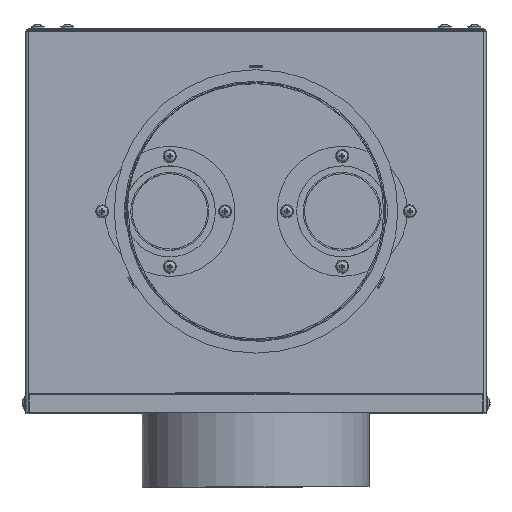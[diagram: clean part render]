
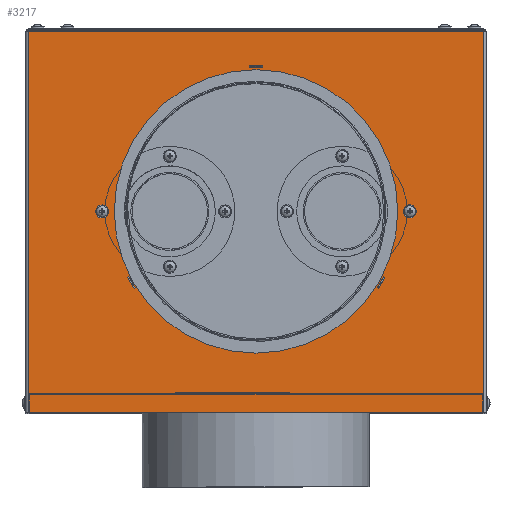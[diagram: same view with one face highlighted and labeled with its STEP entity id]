
A CAD part, top view. The second image highlights one B-rep face of the part: STEP entity #3217.
In plain terms, the highlighted planar face has unit normal (0, 0, 1).
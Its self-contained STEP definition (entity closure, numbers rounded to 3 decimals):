
#3217=ADVANCED_FACE('',(#16882,#16884,#16886,#16888,#16890,#16892,#16894),#16896,
.T.);
#16882=FACE_BOUND('',#16883,.T.);
#16883=EDGE_LOOP('',(#32933,#32934,#32935,#32936));
#16884=FACE_BOUND('',#16885,.T.);
#16885=EDGE_LOOP('',(#32937));
#16886=FACE_BOUND('',#16887,.T.);
#16887=EDGE_LOOP('',(#32938));
#16888=FACE_BOUND('',#16889,.T.);
#16889=EDGE_LOOP('',(#32939,#32940,#32941,#32942));
#16890=FACE_BOUND('',#16891,.T.);
#16891=EDGE_LOOP('',(#32943,#32944,#32945,#32946));
#16892=FACE_BOUND('',#16893,.T.);
#16893=EDGE_LOOP('',(#32947,#32948,#32949,#32950));
#16894=FACE_BOUND('',#16895,.T.);
#16895=EDGE_LOOP('',(#32951));
#16896=PLANE('',#16897);
#16897=AXIS2_PLACEMENT_3D('',#16898,#16899,#16900);
#16898=CARTESIAN_POINT('',(-175.,-15.,161.5));
#16899=DIRECTION('',(0.,0.,1.));
#16900=DIRECTION('',(1.,0.,0.));
#32933=ORIENTED_EDGE('',*,*,#41207,.T.);
#32934=ORIENTED_EDGE('',*,*,#40909,.T.);
#32935=ORIENTED_EDGE('',*,*,#41208,.T.);
#32936=ORIENTED_EDGE('',*,*,#40742,.F.);
#32937=ORIENTED_EDGE('',*,*,#41209,.F.);
#32938=ORIENTED_EDGE('',*,*,#41210,.F.);
#32939=ORIENTED_EDGE('',*,*,#41211,.T.);
#32940=ORIENTED_EDGE('',*,*,#41212,.T.);
#32941=ORIENTED_EDGE('',*,*,#41213,.T.);
#32942=ORIENTED_EDGE('',*,*,#41214,.T.);
#32943=ORIENTED_EDGE('',*,*,#41215,.T.);
#32944=ORIENTED_EDGE('',*,*,#41216,.T.);
#32945=ORIENTED_EDGE('',*,*,#41217,.T.);
#32946=ORIENTED_EDGE('',*,*,#41218,.T.);
#32947=ORIENTED_EDGE('',*,*,#41219,.T.);
#32948=ORIENTED_EDGE('',*,*,#41220,.T.);
#32949=ORIENTED_EDGE('',*,*,#41221,.T.);
#32950=ORIENTED_EDGE('',*,*,#41222,.T.);
#32951=ORIENTED_EDGE('',*,*,#41223,.F.);
#40742=EDGE_CURVE('',#45567,#45569,#45570,.T.);
#40909=EDGE_CURVE('',#45823,#45825,#45827,.T.);
#41207=EDGE_CURVE('',#45567,#45823,#46276,.T.);
#41208=EDGE_CURVE('',#45825,#45569,#46277,.T.);
#41209=EDGE_CURVE('',#46278,#46278,#46279,.F.);
#41210=EDGE_CURVE('',#46280,#46280,#46281,.T.);
#41211=EDGE_CURVE('',#46282,#46283,#46284,.F.);
#41212=EDGE_CURVE('',#46283,#46285,#46286,.F.);
#41213=EDGE_CURVE('',#46285,#46287,#46288,.F.);
#41214=EDGE_CURVE('',#46287,#46282,#46289,.F.);
#41215=EDGE_CURVE('',#46290,#46291,#46292,.F.);
#41216=EDGE_CURVE('',#46291,#46293,#46294,.F.);
#41217=EDGE_CURVE('',#46293,#46295,#46296,.F.);
#41218=EDGE_CURVE('',#46295,#46290,#46297,.F.);
#41219=EDGE_CURVE('',#46298,#46299,#46300,.F.);
#41220=EDGE_CURVE('',#46299,#46301,#46302,.F.);
#41221=EDGE_CURVE('',#46301,#46303,#46304,.F.);
#41222=EDGE_CURVE('',#46303,#46298,#46305,.F.);
#41223=EDGE_CURVE('',#46306,#46306,#46307,.F.);
#45567=VERTEX_POINT('',#53702);
#45569=VERTEX_POINT('',#53707);
#45570=LINE('',#53708,#53709);
#45823=VERTEX_POINT('',#54307);
#45825=VERTEX_POINT('',#54312);
#45827=LINE('',#54317,#54318);
#46276=LINE('',#55373,#55374);
#46277=LINE('',#55376,#55377);
#46278=VERTEX_POINT('',#55379);
#46279=CIRCLE('',#55380,5.);
#46280=VERTEX_POINT('',#55384);
#46281=CIRCLE('',#55385,109.);
#46282=VERTEX_POINT('',#55389);
#46283=VERTEX_POINT('',#55390);
#46284=LINE('',#55391,#55392);
#46285=VERTEX_POINT('',#55394);
#46286=B_SPLINE_CURVE_WITH_KNOTS('',3,
(#55395,#55396,#55397,#55398,#55399,#55400),
.UNSPECIFIED.,.F.,.F.,
(4,1,1,4),
(0.,0.333,0.667,1.),
.UNSPECIFIED.);
#46287=VERTEX_POINT('',#55401);
#46288=LINE('',#55402,#55403);
#46289=B_SPLINE_CURVE_WITH_KNOTS('',3,
(#55405,#55406,#55407,#55408,#55409,#55410),
.UNSPECIFIED.,.F.,.F.,
(4,1,1,4),
(0.,0.333,0.667,1.),
.UNSPECIFIED.);
#46290=VERTEX_POINT('',#55411);
#46291=VERTEX_POINT('',#55412);
#46292=B_SPLINE_CURVE_WITH_KNOTS('',3,
(#55413,#55414,#55415,#55416,#55417,#55418),
.UNSPECIFIED.,.F.,.F.,
(4,1,1,4),
(0.,0.333,0.667,1.),
.UNSPECIFIED.);
#46293=VERTEX_POINT('',#55419);
#46294=LINE('',#55420,#55421);
#46295=VERTEX_POINT('',#55423);
#46296=B_SPLINE_CURVE_WITH_KNOTS('',3,
(#55424,#55425,#55426,#55427,#55428,#55429),
.UNSPECIFIED.,.F.,.F.,
(4,1,1,4),
(0.,0.333,0.667,1.),
.UNSPECIFIED.);
#46297=LINE('',#55430,#55431);
#46298=VERTEX_POINT('',#55433);
#46299=VERTEX_POINT('',#55434);
#46300=LINE('',#55435,#55436);
#46301=VERTEX_POINT('',#55438);
#46302=B_SPLINE_CURVE_WITH_KNOTS('',3,
(#55439,#55440,#55441,#55442,#55443,#55444),
.UNSPECIFIED.,.F.,.F.,
(4,1,1,4),
(0.,0.333,0.667,1.),
.UNSPECIFIED.);
#46303=VERTEX_POINT('',#55445);
#46304=LINE('',#55446,#55447);
#46305=B_SPLINE_CURVE_WITH_KNOTS('',3,
(#55449,#55450,#55451,#55452,#55453,#55454),
.UNSPECIFIED.,.F.,.F.,
(4,1,1,4),
(0.,0.333,0.667,1.),
.UNSPECIFIED.);
#46306=VERTEX_POINT('',#55455);
#46307=CIRCLE('',#55456,5.);
#53702=CARTESIAN_POINT('',(-175.,-15.,161.5));
#53707=CARTESIAN_POINT('',(-175.,278.,161.5));
#53708=CARTESIAN_POINT('',(-175.,-15.,161.5));
#53709=VECTOR('',#53710,1.);
#53710=DIRECTION('',(0.,1.,0.));
#54307=CARTESIAN_POINT('',(175.,-15.,161.5));
#54312=CARTESIAN_POINT('',(175.,278.,161.5));
#54317=CARTESIAN_POINT('',(175.,-15.,161.5));
#54318=VECTOR('',#54319,1.);
#54319=DIRECTION('',(0.,1.,0.));
#55373=CARTESIAN_POINT('',(-175.,-15.,161.5));
#55374=VECTOR('',#55375,1.);
#55375=DIRECTION('',(1.,0.,0.));
#55376=CARTESIAN_POINT('',(175.,278.,161.5));
#55377=VECTOR('',#55378,1.);
#55378=DIRECTION('',(-1.,0.,0.));
#55379=CARTESIAN_POINT('',(-123.292,139.988,161.5));
#55380=AXIS2_PLACEMENT_3D('',#55381,#55382,#55383);
#55381=CARTESIAN_POINT('',(-118.292,139.988,161.5));
#55382=DIRECTION('',(0.,0.,-1.));
#55383=DIRECTION('',(-1.,0.,0.));
#55384=CARTESIAN_POINT('',(109.,140.,161.5));
#55385=AXIS2_PLACEMENT_3D('',#55386,#55387,#55388);
#55386=CARTESIAN_POINT('',(0.,140.,161.5));
#55387=DIRECTION('',(0.,0.,1.));
#55388=DIRECTION('',(1.,0.,0.));
#55389=CARTESIAN_POINT('',(5.,252.026,161.5));
#55390=CARTESIAN_POINT('',(5.,251.025,161.5));
#55391=CARTESIAN_POINT('',(5.,251.025,161.5));
#55392=VECTOR('',#55393,1.);
#55393=DIRECTION('',(0.,1.,0.));
#55394=CARTESIAN_POINT('',(-5.,251.04,161.5));
#55395=CARTESIAN_POINT('',(-5.,251.04,161.5));
#55396=CARTESIAN_POINT('',(-3.889,251.089,161.5));
#55397=CARTESIAN_POINT('',(-1.667,251.152,161.5));
#55398=CARTESIAN_POINT('',(1.668,251.147,161.5));
#55399=CARTESIAN_POINT('',(3.89,251.077,161.5));
#55400=CARTESIAN_POINT('',(5.,251.025,161.5));
#55401=CARTESIAN_POINT('',(-5.,252.041,161.5));
#55402=CARTESIAN_POINT('',(-5.,252.041,161.5));
#55403=VECTOR('',#55404,1.);
#55404=DIRECTION('',(0.,-1.,0.));
#55405=CARTESIAN_POINT('',(5.,252.026,161.5));
#55406=CARTESIAN_POINT('',(3.89,252.077,161.5));
#55407=CARTESIAN_POINT('',(1.668,252.147,161.5));
#55408=CARTESIAN_POINT('',(-1.667,252.152,161.5));
#55409=CARTESIAN_POINT('',(-3.889,252.089,161.5));
#55410=CARTESIAN_POINT('',(-5.,252.041,161.5));
#55411=CARTESIAN_POINT('',(-93.816,80.815,161.5));
#55412=CARTESIAN_POINT('',(-98.775,89.499,161.5));
#55413=CARTESIAN_POINT('',(-98.775,89.499,161.5));
#55414=CARTESIAN_POINT('',(-98.268,88.51,161.5));
#55415=CARTESIAN_POINT('',(-97.224,86.547,161.5));
#55416=CARTESIAN_POINT('',(-95.57,83.651,161.5));
#55417=CARTESIAN_POINT('',(-94.41,81.754,161.5));
#55418=CARTESIAN_POINT('',(-93.816,80.815,161.5));
#55419=CARTESIAN_POINT('',(-97.908,89.999,161.5));
#55420=CARTESIAN_POINT('',(-97.908,89.999,161.5));
#55421=VECTOR('',#55422,1.);
#55422=DIRECTION('',(-0.866,-0.5,0.));
#55423=CARTESIAN_POINT('',(-92.95,81.315,161.5));
#55424=CARTESIAN_POINT('',(-92.95,81.315,161.5));
#55425=CARTESIAN_POINT('',(-93.544,82.254,161.5));
#55426=CARTESIAN_POINT('',(-94.704,84.151,161.5));
#55427=CARTESIAN_POINT('',(-96.358,87.047,161.5));
#55428=CARTESIAN_POINT('',(-97.401,89.01,161.5));
#55429=CARTESIAN_POINT('',(-97.908,89.999,161.5));
#55430=CARTESIAN_POINT('',(-93.816,80.815,161.5));
#55431=VECTOR('',#55432,1.);
#55432=DIRECTION('',(0.866,0.5,0.));
#55433=CARTESIAN_POINT('',(94.113,80.643,161.5));
#55434=CARTESIAN_POINT('',(93.246,81.144,161.5));
#55435=CARTESIAN_POINT('',(93.246,81.144,161.5));
#55436=VECTOR('',#55437,1.);
#55437=DIRECTION('',(0.866,-0.5,0.));
#55438=CARTESIAN_POINT('',(98.231,89.813,161.5));
#55439=CARTESIAN_POINT('',(98.231,89.813,161.5));
#55440=CARTESIAN_POINT('',(97.721,88.825,161.5));
#55441=CARTESIAN_POINT('',(96.671,86.865,161.5));
#55442=CARTESIAN_POINT('',(95.009,83.974,161.5));
#55443=CARTESIAN_POINT('',(93.843,82.081,161.5));
#55444=CARTESIAN_POINT('',(93.246,81.144,161.5));
#55445=CARTESIAN_POINT('',(99.098,89.312,161.5));
#55446=CARTESIAN_POINT('',(99.098,89.312,161.5));
#55447=VECTOR('',#55448,1.);
#55448=DIRECTION('',(-0.866,0.5,0.));
#55449=CARTESIAN_POINT('',(94.113,80.643,161.5));
#55450=CARTESIAN_POINT('',(94.709,81.581,161.5));
#55451=CARTESIAN_POINT('',(95.875,83.474,161.5));
#55452=CARTESIAN_POINT('',(97.537,86.365,161.5));
#55453=CARTESIAN_POINT('',(98.587,88.325,161.5));
#55454=CARTESIAN_POINT('',(99.098,89.312,161.5));
#55455=CARTESIAN_POINT('',(113.26,140.036,161.5));
#55456=AXIS2_PLACEMENT_3D('',#55457,#55458,#55459);
#55457=CARTESIAN_POINT('',(118.26,140.036,161.5));
#55458=DIRECTION('',(0.,0.,-1.));
#55459=DIRECTION('',(-1.,0.,0.));
